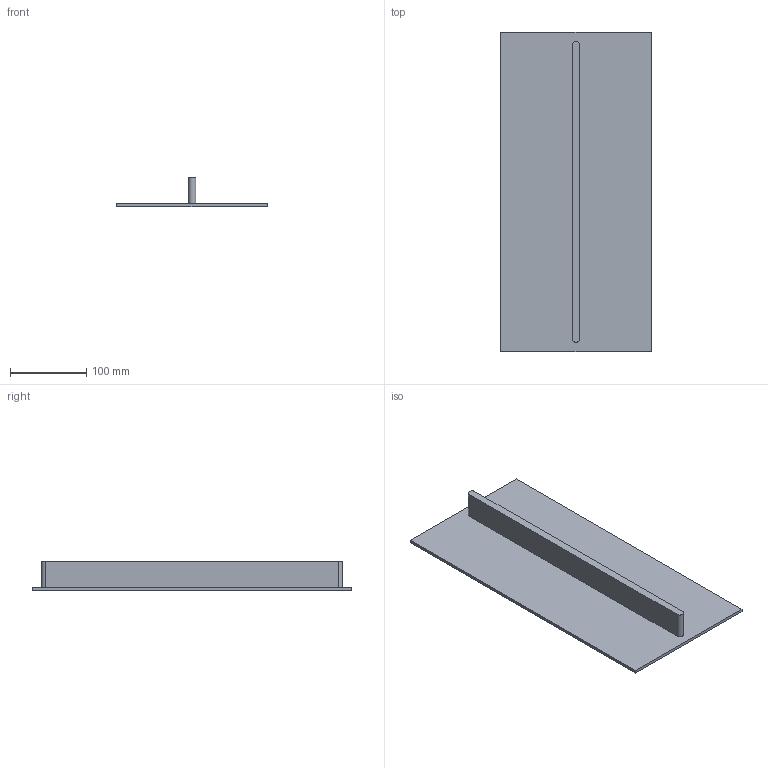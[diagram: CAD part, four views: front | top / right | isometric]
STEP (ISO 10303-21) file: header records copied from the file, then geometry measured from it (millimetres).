
FILE_DESCRIPTION (( 'STEP AP214' ), '1' );
FILE_NAME ('Utensilieneinsatz.STEP', '2010-10-19T08:15:10', ( 'grass' ), ( '' ), 'SwSTEP 2.0', 'SolidWorks 2010', '' );
FILE_SCHEMA (( 'AUTOMOTIVE_DESIGN' ));
Length unit declared in the file: millimetre
Products named in the file (1): Utensilieneinsatz
Bounding box: 197 x 419 x 39 mm (x, y, z)
Volume: 467670.9 mm3; surface area: 198063.6 mm2
Topology: 1 solids, 1 shells, 12 faces, 27 edges, 18 vertices
Faces by surface type: plane 9, cylinder 3
Entity records: 371 total; most frequent: DIRECTION 59, CARTESIAN_POINT 58, ORIENTED_EDGE 54, EDGE_CURVE 27, LINE 21, VECTOR 21, AXIS2_PLACEMENT_3D 19, VERTEX_POINT 18
